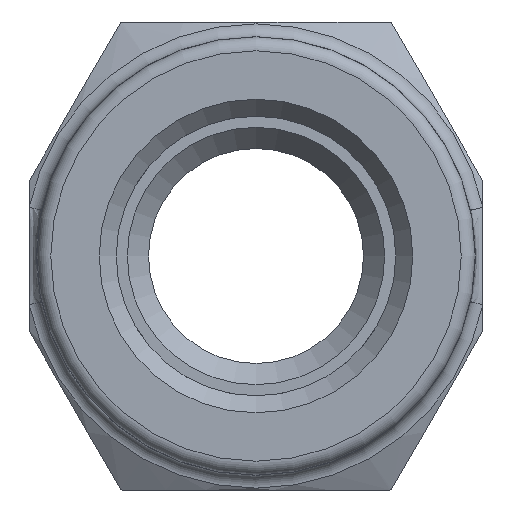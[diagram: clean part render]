
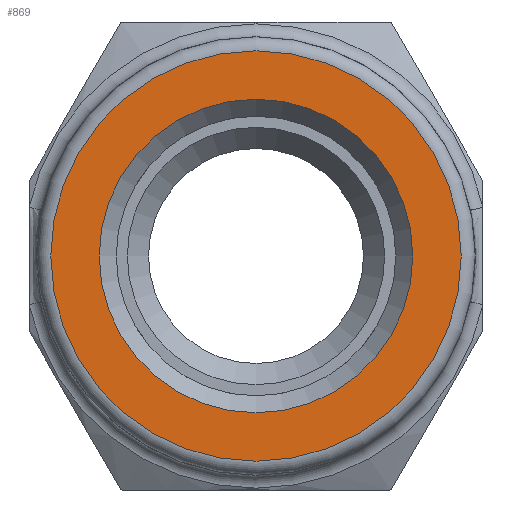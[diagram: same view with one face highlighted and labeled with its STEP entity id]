
A CAD part, front view. The second image highlights one B-rep face of the part: STEP entity #869.
In plain terms, the highlighted planar face has unit normal (0, -1, 0).
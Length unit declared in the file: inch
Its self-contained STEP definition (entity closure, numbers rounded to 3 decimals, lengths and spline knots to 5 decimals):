
#58=PLANE('',#966);
#71=FACE_BOUND('',#178,.T.);
#122=FACE_OUTER_BOUND('',#177,.T.);
#177=EDGE_LOOP('',(#663,#664));
#178=EDGE_LOOP('',(#665,#666));
#287=CIRCLE('',#928,0.335);
#288=CIRCLE('',#929,0.335);
#304=CIRCLE('',#957,0.4385);
#308=CIRCLE('',#961,0.4385);
#353=VERTEX_POINT('',#1294);
#354=VERTEX_POINT('',#1295);
#376=VERTEX_POINT('',#1490);
#377=VERTEX_POINT('',#1491);
#441=EDGE_CURVE('',#353,#354,#287,.T.);
#442=EDGE_CURVE('',#354,#353,#288,.T.);
#476=EDGE_CURVE('',#376,#377,#304,.T.);
#480=EDGE_CURVE('',#377,#376,#308,.T.);
#663=ORIENTED_EDGE('',*,*,#476,.F.);
#664=ORIENTED_EDGE('',*,*,#480,.F.);
#665=ORIENTED_EDGE('',*,*,#441,.T.);
#666=ORIENTED_EDGE('',*,*,#442,.T.);
#869=ADVANCED_FACE('',(#122,#71),#58,.T.);
#928=AXIS2_PLACEMENT_3D('',#1296,#1049,#1050);
#929=AXIS2_PLACEMENT_3D('',#1297,#1051,#1052);
#957=AXIS2_PLACEMENT_3D('',#1492,#1119,#1120);
#961=AXIS2_PLACEMENT_3D('',#1498,#1127,#1128);
#966=AXIS2_PLACEMENT_3D('',#1541,#1138,#1139);
#1049=DIRECTION('center_axis',(0.,1.,0.));
#1050=DIRECTION('ref_axis',(0.,0.,-1.));
#1051=DIRECTION('center_axis',(0.,1.,0.));
#1052=DIRECTION('ref_axis',(0.,0.,-1.));
#1119=DIRECTION('center_axis',(0.,1.,0.));
#1120=DIRECTION('ref_axis',(0.,0.,1.));
#1127=DIRECTION('center_axis',(0.,1.,0.));
#1128=DIRECTION('ref_axis',(0.,0.,1.));
#1138=DIRECTION('center_axis',(0.,-1.,0.));
#1139=DIRECTION('ref_axis',(0.,0.,-1.));
#1294=CARTESIAN_POINT('',(0.,0.,-0.335));
#1295=CARTESIAN_POINT('',(0.,0.,0.335));
#1296=CARTESIAN_POINT('Origin',(0.,0.,0.));
#1297=CARTESIAN_POINT('Origin',(0.,0.,0.));
#1490=CARTESIAN_POINT('',(0.,0.,-0.4385));
#1491=CARTESIAN_POINT('',(0.,0.,0.4385));
#1492=CARTESIAN_POINT('Origin',(0.,0.,0.));
#1498=CARTESIAN_POINT('Origin',(0.,0.,0.));
#1541=CARTESIAN_POINT('Origin',(0.,0.,0.));
